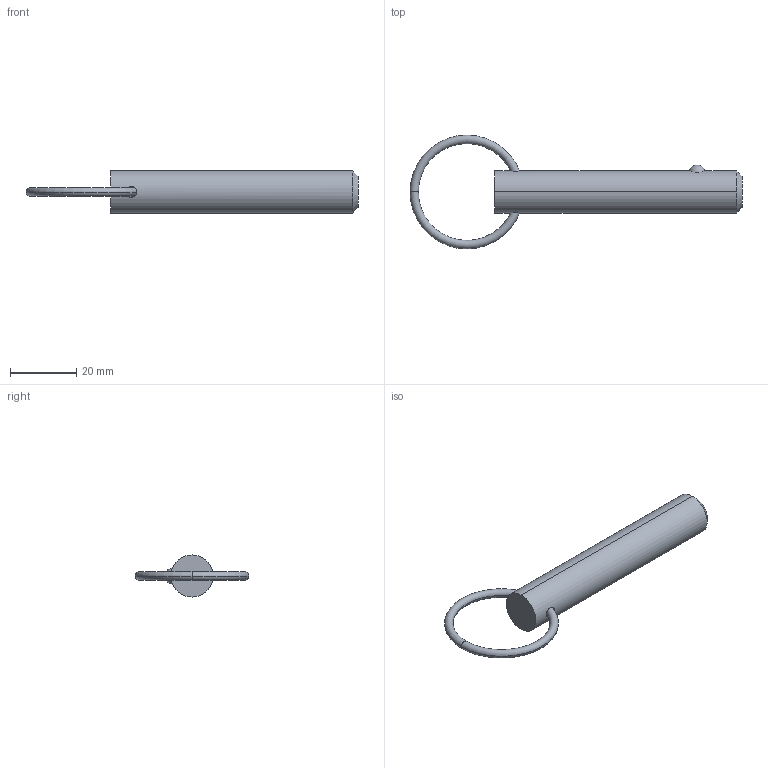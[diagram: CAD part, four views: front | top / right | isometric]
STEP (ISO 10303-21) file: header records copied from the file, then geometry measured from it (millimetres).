
FILE_DESCRIPTION (( 'STEP AP203' ), '1' );
FILE_NAME ('33012.W5020.step', '2024-11-01T14:12:58', ( '' ), ( '' ), 'SwSTEP 2.0', 'SolidWorks 2019', '' );
FILE_SCHEMA (( 'CONFIG_CONTROL_DESIGN' ));
Length unit declared in the file: millimetre
Products named in the file (3): Part1_33012.W5020; 33012.W5020; Part2_33012.W5020
Assembly tree (2 placements, depth 2):
  33012.W5020
    Part1_33012.W5020
    Part2_33012.W5020
Bounding box: 100.09 x 34.29 x 12.7 mm (x, y, z)
Volume: 9826.9 mm3; surface area: 4108.6 mm2
Topology: 2 solids, 2 shells, 16 faces, 31 edges, 18 vertices
Faces by surface type: torus 8, sphere 2, cone 2, cylinder 2, plane 2
Entity records: 885 total; most frequent: CARTESIAN_POINT 242, DIRECTION 88, ORIENTED_EDGE 62, AXIS2_PLACEMENT_3D 42, EDGE_CURVE 31, PERSON_AND_ORGANIZATION 26, CIRCLE 21, COORDINATED_UNIVERSAL_TIME_OFFSET 19
